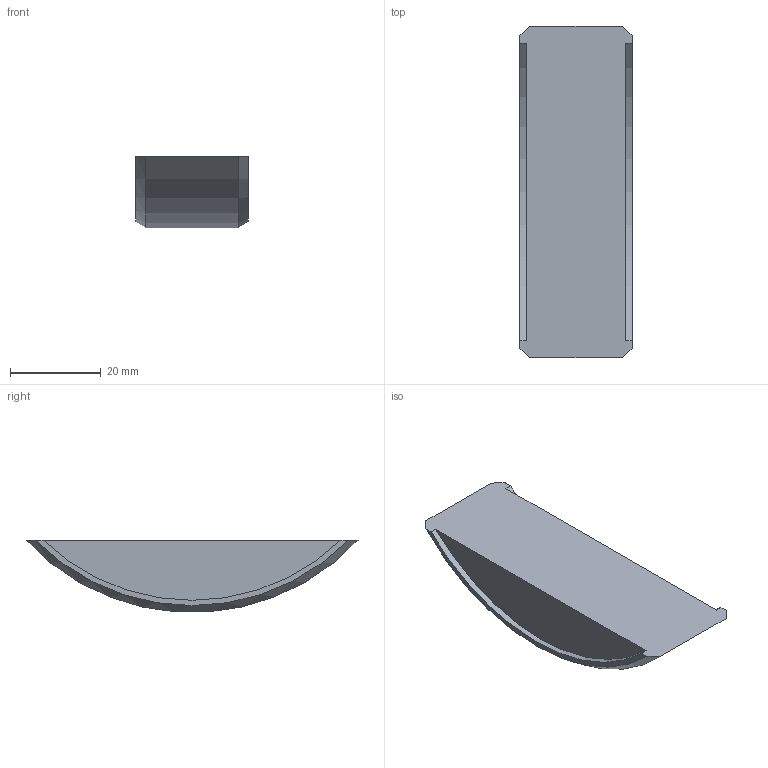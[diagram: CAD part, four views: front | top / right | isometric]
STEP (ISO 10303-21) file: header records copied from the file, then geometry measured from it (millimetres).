
FILE_DESCRIPTION(/* description */ (''),/* implementation_level */ '2;1');
FILE_NAME(/* name */ 'LC P-16x22 Profilnut.stp',/* time_stamp */ '2024-12-19T14:52:52+01:00',/* author */ ('simond'),/* organization */ (''),/* preprocessor_version */ 'ST-DEVELOPER v19.2',/* originating_system */ 'Autodesk Inventor 2023',/* authorisation */ '');
FILE_SCHEMA (('AUTOMOTIVE_DESIGN { 1 0 10303 214 3 1 1 }'));
Length unit declared in the file: millimetre
Products named in the file (1): P-14 Profilnut
Bounding box: 24.8 x 73.32 x 15.86 mm (x, y, z)
Volume: 18158.1 mm3; surface area: 5312 mm2
Topology: 1 solids, 1 shells, 10 faces, 24 edges, 16 vertices
Faces by surface type: plane 5, cylinder 3, cone 2
Entity records: 335 total; most frequent: CARTESIAN_POINT 59, DIRECTION 50, ORIENTED_EDGE 48, EDGE_CURVE 24, AXIS2_PLACEMENT_3D 19, VERTEX_POINT 16, LINE 12, VECTOR 12
